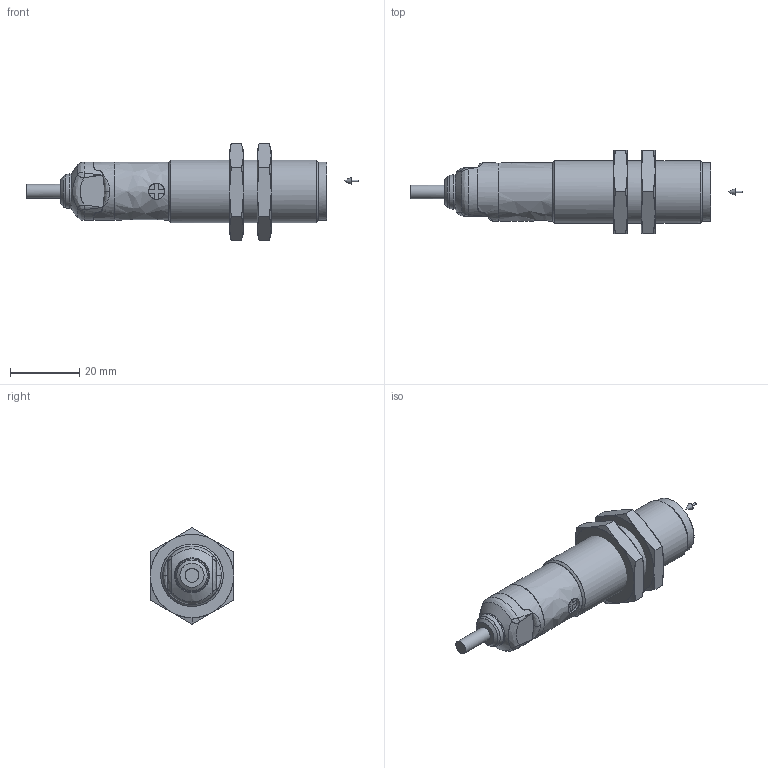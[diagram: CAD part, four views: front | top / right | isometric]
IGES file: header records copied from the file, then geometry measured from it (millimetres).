
Start section: C
Global section: file name: OR18.Ex-xVxP.7BCV.igs; native system:  By UGS Corp.; preprocessor: XPlus GENERIC/IGES 3.0; author: Author; organization: Title; date: 20160608.144352; units: millimetre
Bounding box: 95.63 x 24 x 27.71 mm (x, y, z)
Surface area: 7061.5 mm2 (no closed solid volume)
Topology: 0 solids, 0 shells, 163 faces, 854 edges, 841 vertices
Faces by surface type: bspline 163
